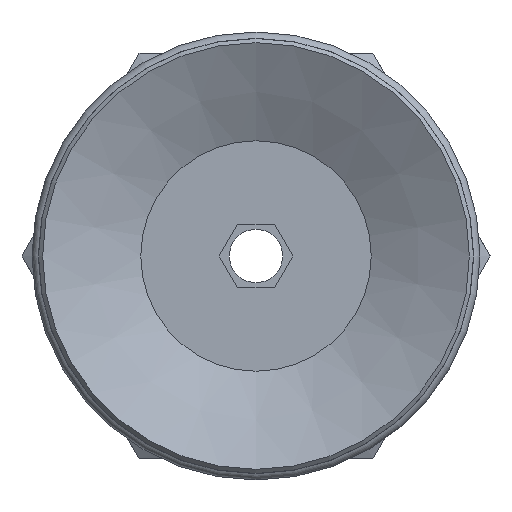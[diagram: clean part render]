
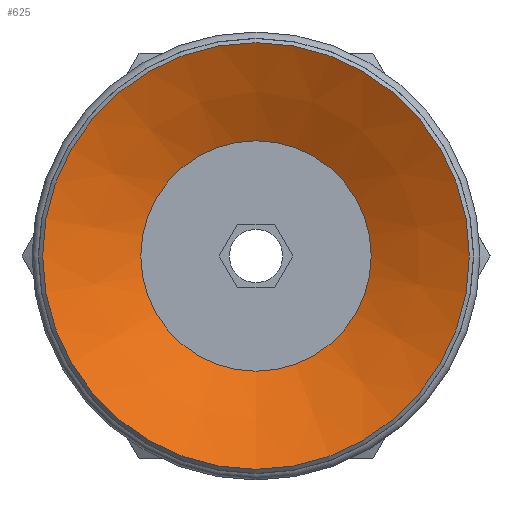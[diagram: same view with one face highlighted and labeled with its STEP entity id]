
A CAD part, front view. The second image highlights one B-rep face of the part: STEP entity #625.
In plain terms, the highlighted conical face has half-angle 63 degrees and reference radius 5.4 mm.
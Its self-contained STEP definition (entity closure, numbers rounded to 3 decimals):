
#625=ADVANCED_FACE('',(#917,#918),#919,.F.);
#917=FACE_BOUND('',#1242,.T.);
#918=FACE_OUTER_BOUND('',#1243,.T.);
#919=CONICAL_SURFACE('',#1244,5.4,1.1);
#1242=EDGE_LOOP('',(#2060));
#1243=EDGE_LOOP('',(#2061));
#1244=AXIS2_PLACEMENT_3D('',#2062,#2063,#2064);
#2060=ORIENTED_EDGE('',*,*,#2396,.F.);
#2061=ORIENTED_EDGE('',*,*,#2395,.T.);
#2062=CARTESIAN_POINT('',(0.0,5.518,0.0));
#2063=DIRECTION('',(-0.0,-1.0,0.));
#2064=DIRECTION('',(0.0,0.,-1.0));
#2395=EDGE_CURVE('',#2787,#2787,#2788,.T.);
#2396=EDGE_CURVE('',#2789,#2789,#2790,.T.);
#2787=VERTEX_POINT('',#3631);
#2788=CIRCLE('',#3632,10.0);
#2789=VERTEX_POINT('',#3633);
#2790=CIRCLE('',#3634,5.4);
#3631=CARTESIAN_POINT('',(0.0,3.175,-10.0));
#3632=AXIS2_PLACEMENT_3D('',#4022,#4023,#4024);
#3633=CARTESIAN_POINT('',(0.0,5.518,-5.4));
#3634=AXIS2_PLACEMENT_3D('',#4025,#4026,#4027);
#4022=CARTESIAN_POINT('',(0.0,3.175,0.0));
#4023=DIRECTION('',(0.0,-1.0,0.));
#4024=DIRECTION('',(0.0,0.,-1.0));
#4025=CARTESIAN_POINT('',(0.0,5.518,0.0));
#4026=DIRECTION('',(0.0,-1.0,0.));
#4027=DIRECTION('',(0.0,0.,-1.0));
